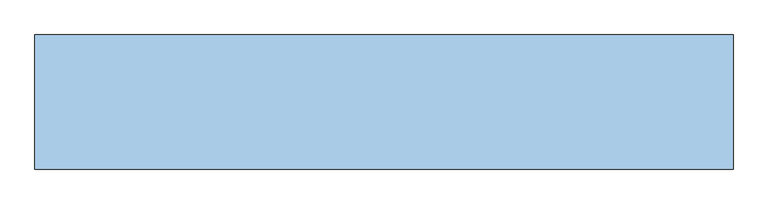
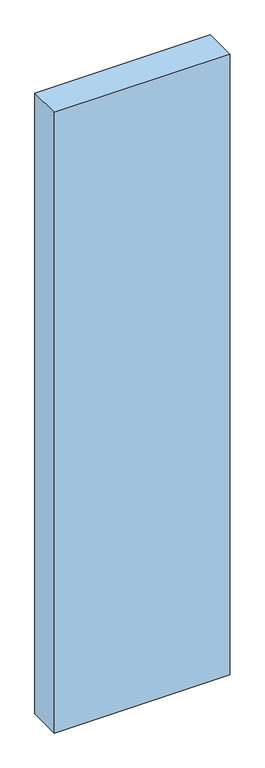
"""IFC4 building model written with IfcOpenShell, lengths in millimetres: window geometry, Dr_Проем-Четверти_об модель : ОК."""

from ifc_helpers import new_model, si_unit, frame, origin, place, context, project, spatial, polyline, outline, extrude, source, transform, mapped, element, save


def window_a78b0ed5(model_context):
    return source(origin(), model_context, "Body", "SweptSolid", [
        extrude(outline(polyline([(655.0, -100.0), (-385.0, -100.0), (-385.0, 100.0), (655.0, 100.0), (655.0, -100.0)])), frame((0.0, 0.0, -70.0), z_axis=(0.0, 0.0, 1.0), x_axis=(1.0, 0.0, 0.0)), (0.0, 0.0, 1.0), 3890.0),
    ])


if __name__ == "__main__":
    model = new_model("IFC4")
    model_context = context("Model", 3, world=origin())
    ifc_project = project(units=[si_unit("LENGTHUNIT", "METRE", prefix="MILLI")], contexts=[model_context])
    site = spatial("IfcSite", under=ifc_project)
    building = spatial("IfcBuilding", under=site)
    placement = place(None, origin())
    window_shape = window_a78b0ed5(model_context)
    element("IfcWindow", 1, ObjectType="Dr_Проем-Четверти_об модель : ОК", at=placement, inside=building, context=model_context, shape_type="MappedRepresentation", body=[
        mapped(window_shape, transform((0.0, 0.0, 0.0), x_axis=(1.0, 0.0, 0.0), y_axis=(0.0, 1.0, 0.0), z_axis=(0.0, 0.0, 1.0))),
    ])
    save(model, "model.ifc")
